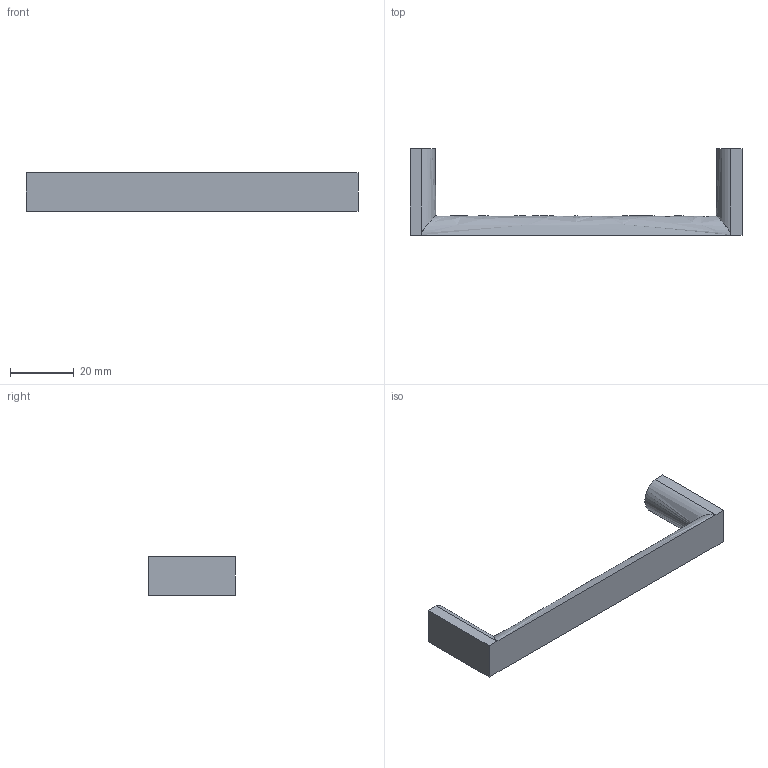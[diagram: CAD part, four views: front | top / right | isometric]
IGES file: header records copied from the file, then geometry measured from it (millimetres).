
Start section: Data from Parasolid IGES Translator 15.0.47, Copyright(c) 2006 Siemens P LM Software. All Rights Reserved.
Global section: file name: 9995482.igs; native system:  By UGS Corp.; preprocessor: XPlus GENERIC/IGES 3.0; author: Noname; organization: Noname; date: 20140122.172335; units: millimetre
Bounding box: 104 x 27 x 12 mm (x, y, z)
Surface area: 5202.5 mm2 (no closed solid volume)
Topology: 0 solids, 0 shells, 16 faces, 64 edges, 62 vertices
Faces by surface type: extrusion 11, revolution 5
